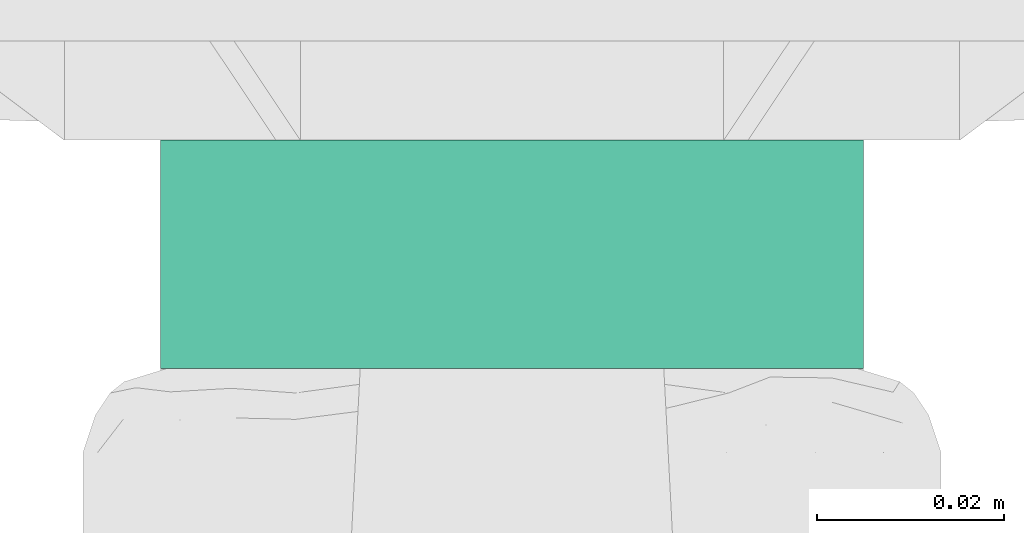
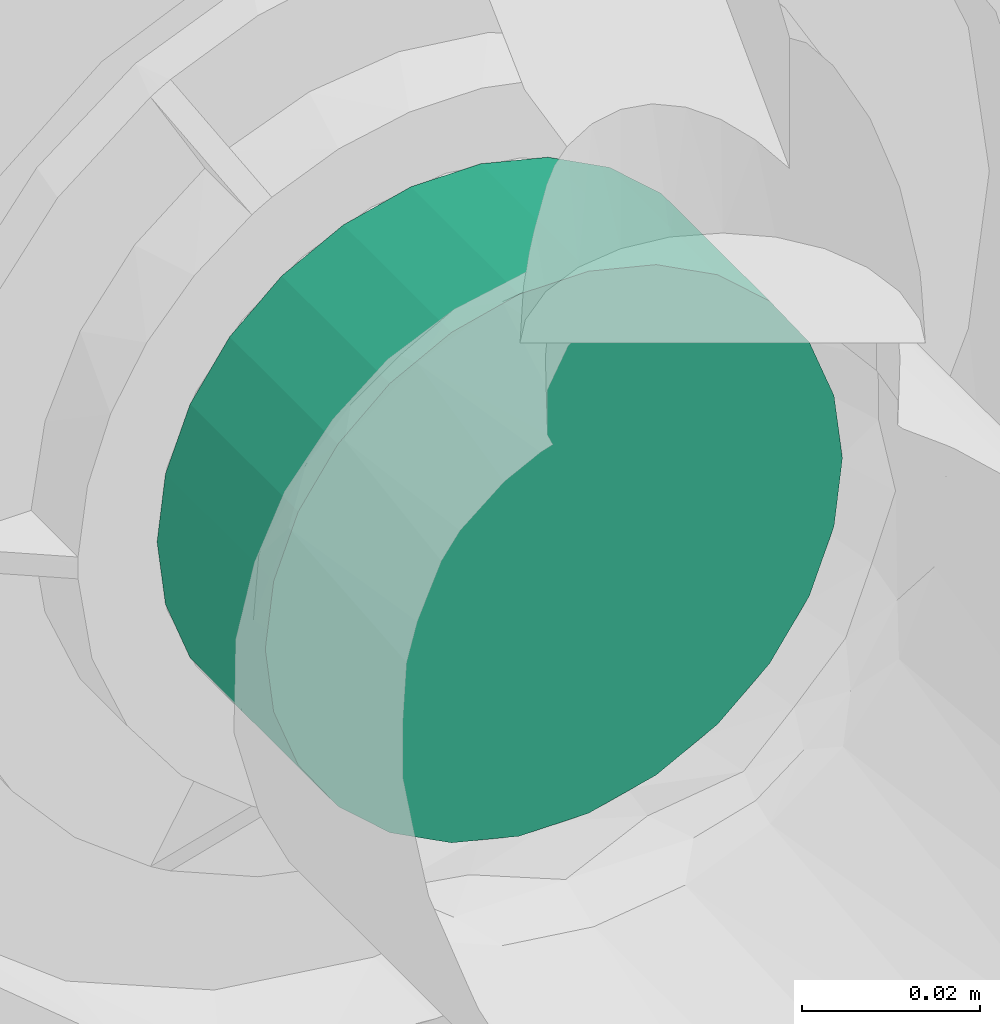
# One storey, part 60 of 166: 1 flow segment.
"""IFC2X3 building model written with IfcOpenShell, lengths in metres."""

from ifc_helpers import new_model, entity, si_unit, converted_unit, direction, frame, origin, origin_2d_with_axis, place, context, subcontext, project, spatial, circle, extrude, type_object, element, save


model = new_model("IFC2X3")

# Units and contexts
model_context = context("Model", 3, precision=1e-05, world=origin(), true_north=direction((6.123233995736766e-17, 1.0)))
body_context = subcontext(model_context, "Body", "Model", "MODEL_VIEW")
ifc_project = project(units=[si_unit("LENGTHUNIT", "METRE"), converted_unit("PLANEANGLEUNIT", "DEGREE", entity("IfcPlaneAngleMeasure", 0.017453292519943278), si_unit("PLANEANGLEUNIT", "RADIAN"), dimensions=[0, 0, 0, 0, 0, 0, 0]), si_unit("AREAUNIT", "SQUARE_METRE")], contexts=[model_context])

# Site, building, storey
site_placement = place(None, origin())
site = spatial("IfcSite", under=ifc_project, at=site_placement, Name="Default", CompositionType="ELEMENT")
building_placement = place(site_placement, origin())
building = spatial("IfcBuilding", under=site, at=building_placement, Name="CASA DE ACOLHIDA PARA IDOSOS", CompositionType="ELEMENT")
storey_placement = place(building_placement, frame((0.0, 0.0, -1.7499999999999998)))
storey = spatial("IfcBuildingStorey", under=building, at=storey_placement, Name="IMPLANTAÇÃO DRENAGEM", CompositionType="ELEMENT", Elevation=-1.7499999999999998)

# Flow segment
pipe_segment_type = type_object("IfcPipeSegmentType", Name="Tipos de tubos:AF_Tubo Marrom Soldável", PredefinedType="NOTDEFINED")
flow_segment_placement = place(storey_placement, origin())
element("IfcFlowSegment", 1, at=flow_segment_placement, inside=storey, type_object=pipe_segment_type, Name="Tipos de tubos:AF_Tubo Marrom Soldável", ObjectType="Tipos de tubos:AF_Tubo Marrom Soldável", context=body_context, shape_type="SweptSolid", body=[
    extrude(circle(Radius=0.037500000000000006, at=origin_2d_with_axis()), frame((-62.75891005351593, 0.13007275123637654, 0.13343317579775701), z_axis=(0.0, 1.0, 0.0), x_axis=(-1.0, 0.0, 0.0)), (0.0, 0.0, 1.0), 0.024349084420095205),
])

save(model, "model.ifc")
